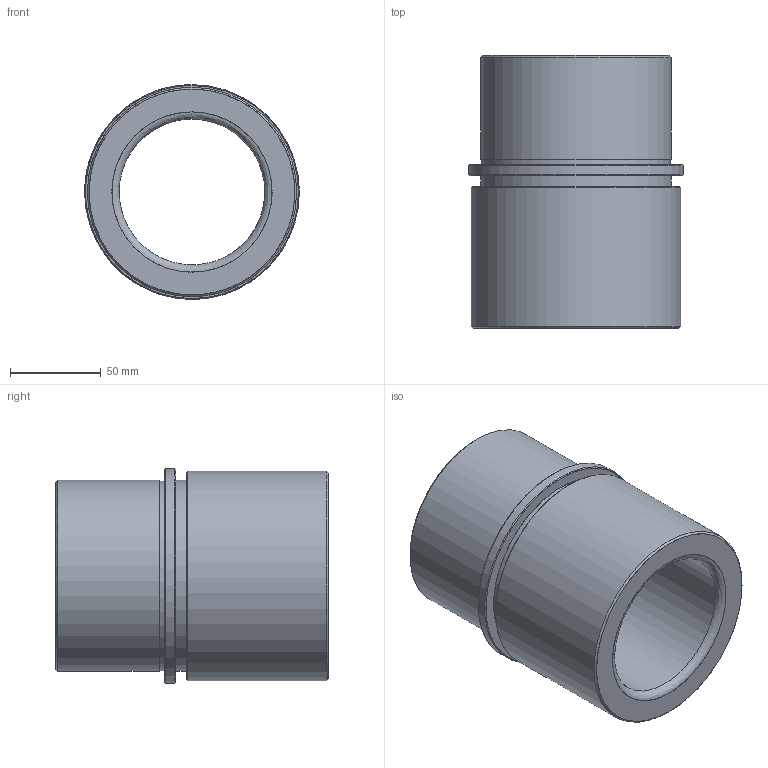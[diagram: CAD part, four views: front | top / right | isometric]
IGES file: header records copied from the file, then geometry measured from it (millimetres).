
Start section: Missler Software BP 521, 31674 Labege Cedex, France Tel   : +33 (0)5 61 00 03 00 Fax   : +33 (0)5 61 00 03 03 Email : sup.topsolid@topsolid.com
Global section: file name: D:\Ýþlevler\Cuma\28 04 2010\D32_8015060.igs; native system: TopSolid v605540 Missler Software; preprocessor: IGES preprocessor v100000; author: Administrator; date: 100428.121151; units: millimetre
Bounding box: 118 x 150 x 118 mm (x, y, z)
Surface area: 104062.8 mm2 (no closed solid volume)
Topology: 0 solids, 0 shells, 19 faces, 432 edges, 422 vertices
Faces by surface type: bspline 19
